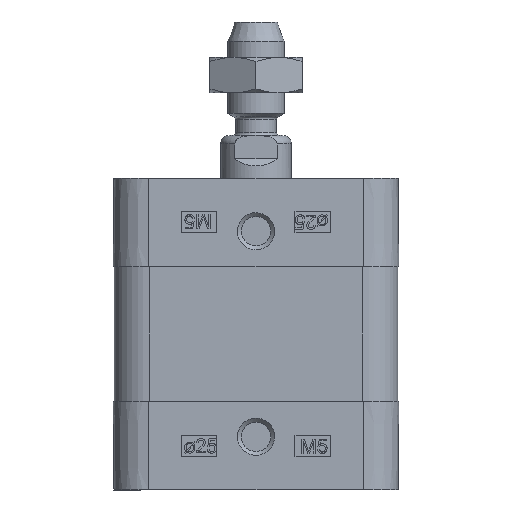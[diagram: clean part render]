
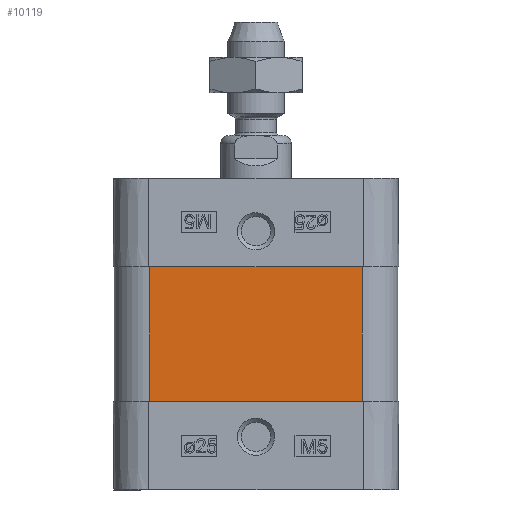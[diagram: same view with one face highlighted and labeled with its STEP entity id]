
A CAD part, left-side view. The second image highlights one B-rep face of the part: STEP entity #10119.
In plain terms, the highlighted planar face has unit normal (-1, 0, 0).
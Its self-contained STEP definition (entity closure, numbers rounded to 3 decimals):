
#933=LINE('',#18153,#1819);
#961=LINE('',#18266,#1847);
#1043=LINE('',#18486,#1929);
#1044=LINE('',#18488,#1930);
#1819=VECTOR('',#15385,1000.);
#1847=VECTOR('',#15471,1000.);
#1929=VECTOR('',#15717,1000.);
#1930=VECTOR('',#15720,1000.);
#3068=ORIENTED_EDGE('',*,*,#5704,.T.);
#3069=ORIENTED_EDGE('',*,*,#5870,.T.);
#3070=ORIENTED_EDGE('',*,*,#5871,.T.);
#3071=ORIENTED_EDGE('',*,*,#5760,.F.);
#5704=EDGE_CURVE('',#7165,#7166,#933,.T.);
#5760=EDGE_CURVE('',#7165,#7221,#961,.T.);
#5870=EDGE_CURVE('',#7166,#7276,#1043,.T.);
#5871=EDGE_CURVE('',#7276,#7221,#1044,.T.);
#7165=VERTEX_POINT('',#18154);
#7166=VERTEX_POINT('',#18155);
#7221=VERTEX_POINT('',#18267);
#7276=VERTEX_POINT('',#18485);
#8270=EDGE_LOOP('',(#3068,#3069,#3070,#3071));
#9044=FACE_BOUND('',#8270,.T.);
#9769=PLANE('',#14535);
#10119=ADVANCED_FACE('',(#9044),#9769,.T.);
#14535=AXIS2_PLACEMENT_3D('',#18487,#15718,#15719);
#15385=DIRECTION('',(0.,0.,-1.));
#15471=DIRECTION('',(0.,-1.,0.));
#15717=DIRECTION('',(0.,-1.,0.));
#15718=DIRECTION('',(-1.,0.,0.));
#15719=DIRECTION('',(0.,0.,1.));
#15720=DIRECTION('',(0.,0.,1.));
#18153=CARTESIAN_POINT('',(-20.,9.5,15.));
#18154=CARTESIAN_POINT('',(-20.,9.5,15.));
#18155=CARTESIAN_POINT('',(-20.,9.5,-15.));
#18266=CARTESIAN_POINT('',(-20.,0.,15.));
#18267=CARTESIAN_POINT('',(-20.,-9.5,15.));
#18485=CARTESIAN_POINT('',(-20.,-9.5,-15.));
#18486=CARTESIAN_POINT('',(-20.,0.,-15.));
#18487=CARTESIAN_POINT('',(-20.,0.,15.));
#18488=CARTESIAN_POINT('',(-20.,-9.5,15.));
